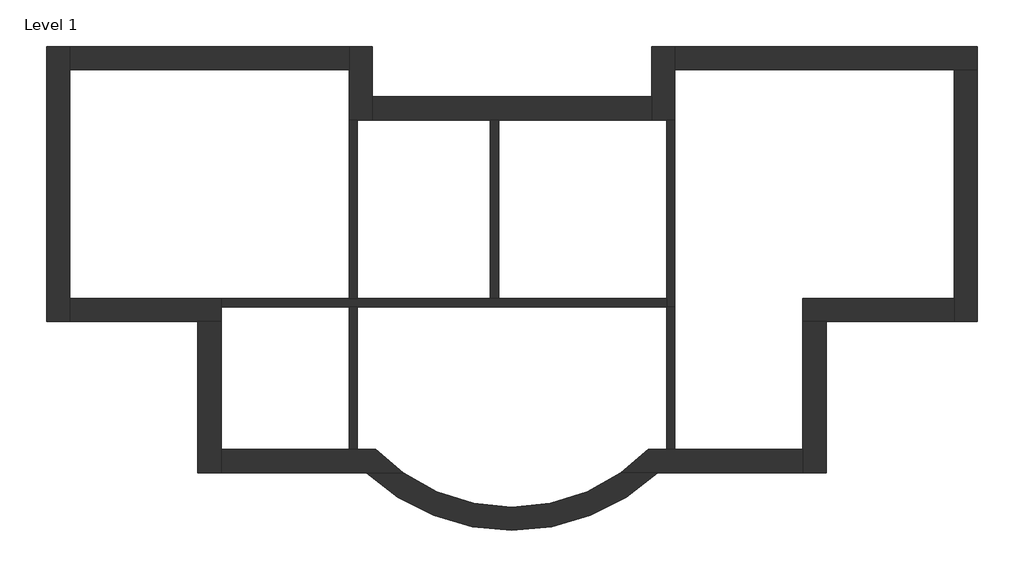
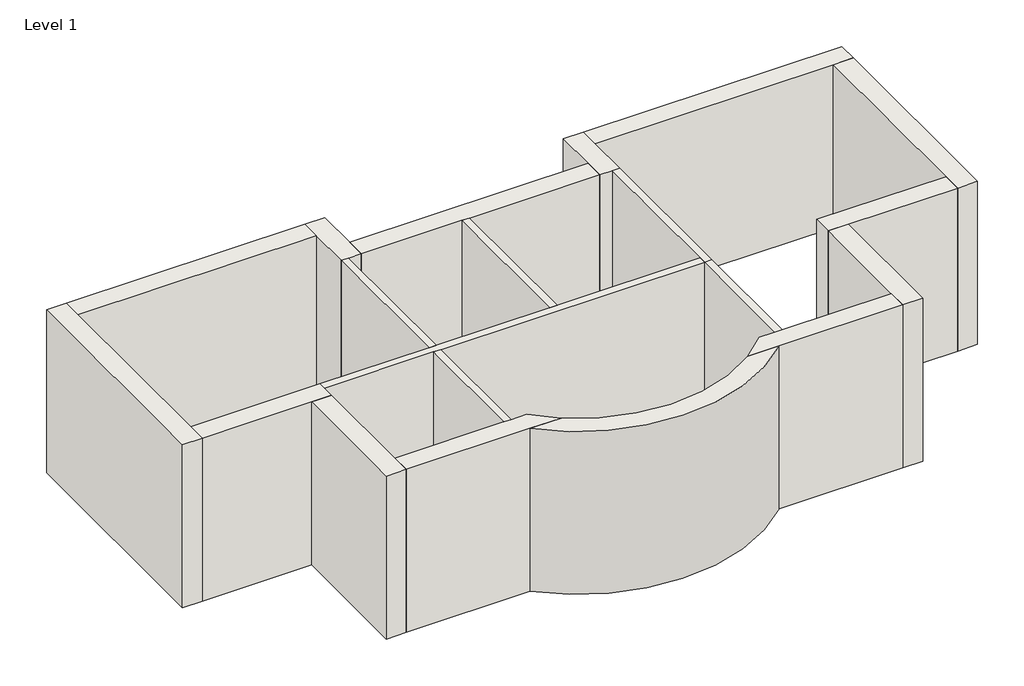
# One storey: 20 walls.
"""IFC4 building model written with IfcOpenShell, lengths in millimetres."""

from ifc_helpers import new_model, si_unit, point, frame, frame_2d, origin, origin_with_axes, place, context, project, spatial, polyline, circle_curve, trimmed, segment, composite_curve, outline, extrude, faceted_brep, element, save
from ifc_brep_helpers import plane_surface, revolved_surface, advanced_brep

model = new_model("IFC4")

# Units and contexts
model_context = context("Model", 3, world=origin())
ifc_project = project(units=[si_unit("LENGTHUNIT", "METRE", prefix="MILLI")], contexts=[model_context])

# Site, building, storey
site = spatial("IfcSite", under=ifc_project)
building = spatial("IfcBuilding", under=site)
storey = spatial("IfcBuildingStorey", under=building, Name="Level 1", Elevation=0.0)

# Walls
placement = place(None, origin())
element("IfcWall", 1, ObjectType="Exterior - Brick on Mtl. Stud", at=placement, inside=storey, context=model_context, shape_type="Brep", body=[
    faceted_brep([(8347.7595851, 12390.7882581, 0.0), (8347.7595851, 8933.2132581, 0.0), (8347.7595851, 8580.7882581, 0.0), (8347.7595851, 8580.7882581, 3048.0), (8347.7595851, 8933.2132581, 3048.0), (8347.7595851, 12390.7882581, 3048.0), (8700.1845851, 12390.7882581, 0.0), (8700.1845851, 12390.7882581, 3048.0), (8700.1845851, 8580.7882581, 3048.0), (8700.1845851, 8580.7882581, 0.0)], [[[0, 1, 2, 3, 4, 5]], [[6, 7, 8, 9]], [[2, 1, 0, 6, 9]], [[5, 4, 3, 8, 7]], [[3, 2, 9, 8]], [[0, 5, 7, 6]]]),
])
element("IfcWall", 2, ObjectType="Exterior - Brick on Mtl. Stud", at=placement, inside=storey, context=model_context, shape_type="Brep", body=[
    faceted_brep([(8347.7595851, 8933.2132581, 0.0), (6061.7595851, 8933.2132581, 0.0), (6061.7595851, 8933.2132581, 3048.0), (8347.7595851, 8933.2132581, 3048.0), (8347.7595851, 8580.7882581, 0.0), (8347.7595851, 8580.7882581, 3048.0), (6414.1845851, 8580.7882581, 3048.0), (6061.7595851, 8580.7882581, 3048.0), (6061.7595851, 8580.7882581, 0.0), (6414.1845851, 8580.7882581, 0.0)], [[[0, 1, 2, 3]], [[4, 5, 6, 7, 8, 9]], [[1, 0, 4, 9, 8]], [[3, 2, 7, 6, 5]], [[2, 1, 8, 7]], [[0, 3, 5, 4]]]),
])
element("IfcWall", 3, ObjectType="Exterior - Brick on Mtl. Stud", at=placement, inside=storey, context=model_context, shape_type="Brep", body=[
    faceted_brep([(6061.7595851, 8580.7882581, 0.0), (6061.7595851, 6647.2132581, 0.0), (6061.7595851, 6294.7882581, 0.0), (6061.7595851, 6294.7882581, 3048.0), (6061.7595851, 6647.2132581, 3048.0), (6061.7595851, 8580.7882581, 3048.0), (6414.1845851, 8580.7882581, 0.0), (6414.1845851, 8580.7882581, 3048.0), (6414.1845851, 6294.7882581, 3048.0), (6414.1845851, 6294.7882581, 0.0)], [[[0, 1, 2, 3, 4, 5]], [[6, 7, 8, 9]], [[2, 1, 0, 6, 9]], [[5, 4, 3, 8, 7]], [[3, 2, 9, 8]], [[0, 5, 7, 6]]]),
])
element("IfcWall", 4, ObjectType="Exterior - Brick on Mtl. Stud", at=placement, inside=storey, context=model_context, shape_type="AdvancedBrep", body=[
    advanced_brep(
    [(6061.7595851, 6647.2132581, 0.0), (4128.1845851, 6647.2132581, 0.0), (4001.1845851, 6647.2132581, 0.0), (3726.3564328, 6647.2132581, 0.0), (3726.3564328, 6647.2132581, 3048.0), (4001.1845851, 6647.2132581, 3048.0), (4128.1845851, 6647.2132581, 3048.0), (6061.7595851, 6647.2132581, 3048.0), (6061.7595851, 6294.7882581, 0.0), (6061.7595851, 6294.7882581, 3048.0), (3870.3573191, 6294.7882581, 3048.0), (3312.4627349, 6294.7882581, 3048.0), (3312.4627349, 6294.7882581, 0.0), (3870.3573191, 6294.7882581, 0.0)],
    [
        (0, 1),
        (1, 2),
        (2, 3),
        (3, 4),
        (4, 5),
        (5, 6),
        (6, 7),
        (7, 0),
        (8, 9),
        (9, 10),
        (10, 11),
        (11, 12),
        (12, 13),
        (13, 8),
        (0, 8),
        (12, 3, circle_curve(frame((1665.9720851, 8647.7081431, 0.0), z_axis=(0.0, 0.0, 1.0), x_axis=(1.0, 0.0, 0.0)), 2871.7875)),
        (4, 11, circle_curve(frame((1665.9720851, 8647.7081431, 3048.0), z_axis=(0.0, 0.0, -1.0), x_axis=(1.0, 0.0, 0.0)), 2871.7875)),
        (9, 7),
    ],
    [
        plane_surface(frame((6237.9720851, 6647.2132581, 0.0), z_axis=(0.0, 1.0, 0.0), x_axis=(-1.0, 0.0, 0.0))),
        plane_surface(frame((6237.9720851, 6294.7882581, 0.0), z_axis=(0.0, -1.0, 0.0), x_axis=(1.0, 0.0, 0.0))),
        plane_surface(frame((6237.9720851, 6647.2132581, 0.0), z_axis=(0.0, 0.0, -1.0), x_axis=(0.0, -1.0, 0.0))),
        plane_surface(frame((3799.5720851, 6647.2132581, 3048.0), z_axis=(0.0, 0.0, 1.0), x_axis=(0.0, -1.0, 0.0))),
        revolved_surface(polyline([(4537.7595851, 8647.7081431, 0.0), (4537.7595851, 8647.7081431, 3048.0)]), (1665.9720851, 8647.7081431, 0.0), (0.0, 0.0, -1.0)),
        plane_surface(frame((6061.7595851, 8757.0007581, 0.0), z_axis=(1.0, 0.0, 0.0), x_axis=(0.0, -1.0, 0.0))),
    ],
    [
        (0, [[1, 2, 3, 4, 5, 6, 7, 8]]),
        (1, [[9, 10, 11, 12, 13, 14]]),
        (2, [[-3, -2, -1, 15, -14, -13, 16]]),
        (3, [[-7, -6, -5, 17, -11, -10, 18]]),
        (4, [[-4, -16, -12, -17]]),
        (5, [[-8, -18, -9, -15]]),
    ],
),
])
element("IfcWall", 5, ObjectType="Exterior - Brick on Mtl. Stud", at=placement, inside=storey, context=model_context, shape_type="Brep", body=[
    faceted_brep([(-5368.2404149, 12743.2132581, 0.0), (-5368.2404149, 8580.7882581, 0.0), (-5368.2404149, 8580.7882581, 3048.0), (-5368.2404149, 12743.2132581, 3048.0), (-5015.8154149, 12743.2132581, 0.0), (-5015.8154149, 12743.2132581, 3048.0), (-5015.8154149, 12390.7882581, 3048.0), (-5015.8154149, 8933.2132581, 3048.0), (-5015.8154149, 8580.7882581, 3048.0), (-5015.8154149, 8580.7882581, 0.0), (-5015.8154149, 8933.2132581, 0.0), (-5015.8154149, 12390.7882581, 0.0)], [[[0, 1, 2, 3]], [[4, 5, 6, 7, 8, 9, 10, 11]], [[1, 0, 4, 11, 10, 9]], [[3, 2, 8, 7, 6, 5]], [[2, 1, 9, 8]], [[0, 3, 5, 4]]]),
])
element("IfcWall", 6, ObjectType="Exterior - Brick on Mtl. Stud", at=placement, inside=storey, context=model_context, shape_type="Brep", body=[
    faceted_brep([(-5015.8154149, 8580.7882581, 0.0), (-3082.2404149, 8580.7882581, 0.0), (-2729.8154149, 8580.7882581, 0.0), (-2729.8154149, 8580.7882581, 3048.0), (-3082.2404149, 8580.7882581, 3048.0), (-5015.8154149, 8580.7882581, 3048.0), (-5015.8154149, 8933.2132581, 0.0), (-5015.8154149, 8933.2132581, 3048.0), (-2729.8154149, 8933.2132581, 3048.0), (-2729.8154149, 8933.2132581, 0.0), (-2729.8154149, 8806.2132581, 0.0), (-2729.8154149, 8806.2132581, 3048.0)], [[[0, 1, 2, 3, 4, 5]], [[6, 7, 8, 9]], [[2, 1, 0, 6, 9, 10]], [[5, 4, 3, 11, 8, 7]], [[3, 2, 10, 9, 8, 11]], [[0, 5, 7, 6]]]),
])
element("IfcWall", 7, ObjectType="Exterior - Brick on Mtl. Stud", at=placement, inside=storey, context=model_context, shape_type="Brep", body=[
    faceted_brep([(-3082.2404149, 8580.7882581, 0.0), (-3082.2404149, 6294.7882581, 0.0), (-3082.2404149, 6294.7882581, 3048.0), (-3082.2404149, 8580.7882581, 3048.0), (-2729.8154149, 8580.7882581, 0.0), (-2729.8154149, 8580.7882581, 3048.0), (-2729.8154149, 6647.2132581, 3048.0), (-2729.8154149, 6294.7882581, 3048.0), (-2729.8154149, 6294.7882581, 0.0), (-2729.8154149, 6647.2132581, 0.0)], [[[0, 1, 2, 3]], [[4, 5, 6, 7, 8, 9]], [[1, 0, 4, 9, 8]], [[3, 2, 7, 6, 5]], [[2, 1, 8, 7]], [[0, 3, 5, 4]]]),
])
element("IfcWall", 8, ObjectType="Exterior - Brick on Mtl. Stud", at=placement, inside=storey, context=model_context, shape_type="AdvancedBrep", body=[
    advanced_brep(
    [(-2729.8154149, 6294.7882581, 0.0), (-538.4131488, 6294.7882581, 0.0), (19.4814354, 6294.7882581, 0.0), (19.4814354, 6294.7882581, 3048.0), (-538.4131488, 6294.7882581, 3048.0), (-2729.8154149, 6294.7882581, 3048.0), (-2729.8154149, 6647.2132581, 0.0), (-2729.8154149, 6647.2132581, 3048.0), (-796.2404149, 6647.2132581, 3048.0), (-669.2404149, 6647.2132581, 3048.0), (-394.4122625, 6647.2132581, 3048.0), (-394.4122625, 6647.2132581, 0.0), (-669.2404149, 6647.2132581, 0.0), (-796.2404149, 6647.2132581, 0.0)],
    [
        (0, 1),
        (1, 2),
        (2, 3),
        (3, 4),
        (4, 5),
        (5, 0),
        (6, 7),
        (7, 8),
        (8, 9),
        (9, 10),
        (10, 11),
        (11, 12),
        (12, 13),
        (13, 6),
        (0, 6),
        (11, 2, circle_curve(frame((1665.9720851, 8647.7081431, 0.0), z_axis=(0.0, 0.0, 1.0), x_axis=(1.0, 0.0, 0.0)), 2871.7875)),
        (3, 10, circle_curve(frame((1665.9720851, 8647.7081431, 3048.0), z_axis=(0.0, 0.0, -1.0), x_axis=(1.0, 0.0, 0.0)), 2871.7875)),
        (7, 5),
    ],
    [
        plane_surface(frame((-2906.0279149, 6294.7882581, 0.0), z_axis=(0.0, -1.0, 0.0), x_axis=(1.0, 0.0, 0.0))),
        plane_surface(frame((-2906.0279149, 6647.2132581, 0.0), z_axis=(0.0, 1.0, 0.0), x_axis=(-1.0, 0.0, 0.0))),
        plane_surface(frame((-2906.0279149, 6294.7882581, 0.0), z_axis=(0.0, 0.0, -1.0), x_axis=(0.0, 1.0, 0.0))),
        plane_surface(frame((-467.6279149, 6294.7882581, 3048.0), z_axis=(0.0, 0.0, 1.0), x_axis=(0.0, 1.0, 0.0))),
        revolved_surface(polyline([(4537.7595851, 8647.7081431, 0.0), (4537.7595851, 8647.7081431, 3048.0)]), (1665.9720851, 8647.7081431, 0.0), (0.0, 0.0, -1.0)),
        plane_surface(frame((-2729.8154149, 8757.0007581, 0.0), z_axis=(-1.0, 0.0, 0.0), x_axis=(0.0, 1.0, 0.0))),
    ],
    [
        (0, [[1, 2, 3, 4, 5, 6]]),
        (1, [[7, 8, 9, 10, 11, 12, 13, 14]]),
        (2, [[-2, -1, 15, -14, -13, -12, 16]]),
        (3, [[-5, -4, 17, -10, -9, -8, 18]]),
        (4, [[-3, -16, -11, -17]]),
        (5, [[-6, -18, -7, -15]]),
    ],
),
])
element("IfcWall", 9, ObjectType="Exterior - Brick on Mtl. Stud", at=placement, inside=storey, context=model_context, shape_type="SweptSolid", body=[
    extrude(outline(polyline([(-796.2404149, 12390.7882581), (-5015.8154149, 12390.7882581), (-5015.8154149, 12743.2132581), (-796.2404149, 12743.2132581), (-796.2404149, 12390.7882581)])), origin_with_axes(), (0.0, 0.0, 1.0), 3048.0),
])
element("IfcWall", 10, ObjectType="Exterior - Brick on Mtl. Stud", at=placement, inside=storey, context=model_context, shape_type="Brep", body=[
    faceted_brep([(-796.2404149, 12743.2132581, 0.0), (-796.2404149, 12390.7882581, 0.0), (-796.2404149, 11628.7882581, 0.0), (-796.2404149, 11628.7882581, 3048.0), (-796.2404149, 12390.7882581, 3048.0), (-796.2404149, 12743.2132581, 3048.0), (-443.8154149, 12743.2132581, 0.0), (-443.8154149, 12743.2132581, 3048.0), (-443.8154149, 11981.2132581, 3048.0), (-443.8154149, 11628.7882581, 3048.0), (-443.8154149, 11628.7882581, 0.0), (-443.8154149, 11981.2132581, 0.0), (-669.2404149, 11628.7882581, 0.0), (-669.2404149, 11628.7882581, 3048.0)], [[[0, 1, 2, 3, 4, 5]], [[6, 7, 8, 9, 10, 11]], [[2, 1, 0, 6, 11, 10, 12]], [[5, 4, 3, 13, 9, 8, 7]], [[0, 5, 7, 6]], [[3, 2, 12, 10, 9, 13]]]),
])
element("IfcWall", 11, ObjectType="Exterior - Brick on Mtl. Stud", at=placement, inside=storey, context=model_context, shape_type="Brep", body=[
    faceted_brep([(-443.8154149, 11628.7882581, 0.0), (1337.3595851, 11628.7882581, 0.0), (1464.3595851, 11628.7882581, 0.0), (3775.7595851, 11628.7882581, 0.0), (3775.7595851, 11628.7882581, 3048.0), (1464.3595851, 11628.7882581, 3048.0), (1337.3595851, 11628.7882581, 3048.0), (-443.8154149, 11628.7882581, 3048.0), (-443.8154149, 11981.2132581, 0.0), (-443.8154149, 11981.2132581, 3048.0), (3775.7595851, 11981.2132581, 3048.0), (3775.7595851, 11981.2132581, 0.0)], [[[0, 1, 2, 3, 4, 5, 6, 7]], [[8, 9, 10, 11]], [[3, 2, 1, 0, 8, 11]], [[7, 6, 5, 4, 10, 9]], [[0, 7, 9, 8]], [[4, 3, 11, 10]]]),
])
element("IfcWall", 12, ObjectType="Exterior - Brick on Mtl. Stud", at=placement, inside=storey, context=model_context, shape_type="Brep", body=[
    faceted_brep([(4128.1845851, 11628.7882581, 0.0), (4128.1845851, 12390.7882581, 0.0), (4128.1845851, 12743.2132581, 0.0), (4128.1845851, 12743.2132581, 3048.0), (4128.1845851, 12390.7882581, 3048.0), (4128.1845851, 11628.7882581, 3048.0), (3775.7595851, 11628.7882581, 0.0), (3775.7595851, 11628.7882581, 3048.0), (3775.7595851, 11981.2132581, 3048.0), (3775.7595851, 12743.2132581, 3048.0), (3775.7595851, 12743.2132581, 0.0), (3775.7595851, 11981.2132581, 0.0), (4001.1845851, 11628.7882581, 0.0), (4001.1845851, 11628.7882581, 3048.0)], [[[0, 1, 2, 3, 4, 5]], [[6, 7, 8, 9, 10, 11]], [[2, 1, 0, 12, 6, 11, 10]], [[5, 4, 3, 9, 8, 7, 13]], [[0, 5, 13, 7, 6, 12]], [[3, 2, 10, 9]]]),
])
element("IfcWall", 13, ObjectType="Exterior - Brick on Mtl. Stud", at=placement, inside=storey, context=model_context, shape_type="Brep", body=[
    faceted_brep([(4128.1845851, 12390.7882581, 0.0), (8347.7595851, 12390.7882581, 0.0), (8700.1845851, 12390.7882581, 0.0), (8700.1845851, 12390.7882581, 3048.0), (8347.7595851, 12390.7882581, 3048.0), (4128.1845851, 12390.7882581, 3048.0), (4128.1845851, 12743.2132581, 0.0), (4128.1845851, 12743.2132581, 3048.0), (8700.1845851, 12743.2132581, 3048.0), (8700.1845851, 12743.2132581, 0.0)], [[[0, 1, 2, 3, 4, 5]], [[6, 7, 8, 9]], [[2, 1, 0, 6, 9]], [[5, 4, 3, 8, 7]], [[3, 2, 9, 8]], [[0, 5, 7, 6]]]),
])
element("IfcWall", 14, ObjectType="Exterior - Brick on Mtl. Stud", at=placement, inside=storey, context=model_context, shape_type="SweptSolid", body=[
    extrude(outline(composite_curve([segment(polyline([(3312.4627349, 6294.7882581), (3870.3573191, 6294.7882581)]), True, "CONTINUOUS"), segment(trimmed(circle_curve(frame_2d((1665.9720851, 8647.7081431)), 3224.2125), [point((3870.3573191, 6294.7882581))], [point((-538.4131488, 6294.7882581))], False, "CARTESIAN"), True, "CONTINUOUS"), segment(polyline([(-538.4131488, 6294.7882581), (19.4814354, 6294.7882581)]), True, "CONTINUOUS"), segment(trimmed(circle_curve(frame_2d((1665.9720851, 8647.7081431)), 2871.7875), [point((19.4814354, 6294.7882581))], [point((3312.4627349, 6294.7882581))], True, "CARTESIAN"), True, "CONTINUOUS")], self_intersect=False)), origin_with_axes(), (0.0, 0.0, 1.0), 3048.0),
])
element("IfcWall", 15, ObjectType="Interior - 5\" Partition (2-hr)", at=placement, inside=storey, context=model_context, shape_type="Brep", body=[
    faceted_brep([(4001.1845851, 11628.7882581, 0.0), (4001.1845851, 8933.2132581, 0.0), (4001.1845851, 8806.2132581, 0.0), (4001.1845851, 8806.2132581, 3048.0), (4001.1845851, 8933.2132581, 3048.0), (4001.1845851, 11628.7882581, 3048.0), (4128.1845851, 11628.7882581, 0.0), (4128.1845851, 11628.7882581, 3048.0), (4128.1845851, 8806.2132581, 3048.0), (4128.1845851, 8806.2132581, 0.0)], [[[0, 1, 2, 3, 4, 5]], [[6, 7, 8, 9]], [[2, 1, 0, 6, 9]], [[5, 4, 3, 8, 7]], [[3, 2, 9, 8]], [[0, 5, 7, 6]]]),
])
element("IfcWall", 16, ObjectType="Interior - 5\" Partition (2-hr)", at=placement, inside=storey, context=model_context, shape_type="Brep", body=[
    faceted_brep([(-2729.8154149, 8806.2132581, 0.0), (-796.2404149, 8806.2132581, 0.0), (-669.2404149, 8806.2132581, 0.0), (4001.1845851, 8806.2132581, 0.0), (4001.1845851, 8806.2132581, 3048.0), (-669.2404149, 8806.2132581, 3048.0), (-796.2404149, 8806.2132581, 3048.0), (-2729.8154149, 8806.2132581, 3048.0), (-2729.8154149, 8933.2132581, 0.0), (-2729.8154149, 8933.2132581, 3048.0), (-796.2404149, 8933.2132581, 3048.0), (-669.2404149, 8933.2132581, 3048.0), (1337.3595851, 8933.2132581, 3048.0), (1464.3595851, 8933.2132581, 3048.0), (4001.1845851, 8933.2132581, 3048.0), (4001.1845851, 8933.2132581, 0.0), (1464.3595851, 8933.2132581, 0.0), (1337.3595851, 8933.2132581, 0.0), (-669.2404149, 8933.2132581, 0.0), (-796.2404149, 8933.2132581, 0.0)], [[[0, 1, 2, 3, 4, 5, 6, 7]], [[8, 9, 10, 11, 12, 13, 14, 15, 16, 17, 18, 19]], [[3, 2, 1, 0, 8, 19, 18, 17, 16, 15]], [[7, 6, 5, 4, 14, 13, 12, 11, 10, 9]], [[0, 7, 9, 8]], [[4, 3, 15, 14]]]),
])
element("IfcWall", 17, ObjectType="Interior - 5\" Partition (2-hr)", at=placement, inside=storey, context=model_context, shape_type="SweptSolid", body=[
    extrude(outline(polyline([(-796.2404149, 8933.2132581), (-796.2404149, 11628.7882581), (-669.2404149, 11628.7882581), (-669.2404149, 8933.2132581), (-796.2404149, 8933.2132581)])), origin_with_axes(), (0.0, 0.0, 1.0), 3048.0),
])
element("IfcWall", 18, ObjectType="Interior - 5\" Partition (2-hr)", at=placement, inside=storey, context=model_context, shape_type="SweptSolid", body=[
    extrude(outline(polyline([(1464.3595851, 11628.7882581), (1464.3595851, 8933.2132581), (1337.3595851, 8933.2132581), (1337.3595851, 11628.7882581), (1464.3595851, 11628.7882581)])), origin_with_axes(), (0.0, 0.0, 1.0), 3048.0),
])
element("IfcWall", 19, ObjectType="Interior - 5\" Partition (2-hr)", at=placement, inside=storey, context=model_context, shape_type="SweptSolid", body=[
    extrude(outline(polyline([(-796.2404149, 6647.2132581), (-796.2404149, 8806.2132581), (-669.2404149, 8806.2132581), (-669.2404149, 6647.2132581), (-796.2404149, 6647.2132581)])), origin_with_axes(), (0.0, 0.0, 1.0), 3048.0),
])
element("IfcWall", 20, ObjectType="Interior - 5\" Partition (2-hr)", at=placement, inside=storey, context=model_context, shape_type="SweptSolid", body=[
    extrude(outline(polyline([(4001.1845851, 6647.2132581), (4001.1845851, 8806.2132581), (4128.1845851, 8806.2132581), (4128.1845851, 6647.2132581), (4001.1845851, 6647.2132581)])), origin_with_axes(), (0.0, 0.0, 1.0), 3048.0),
])

save(model, "model.ifc")
